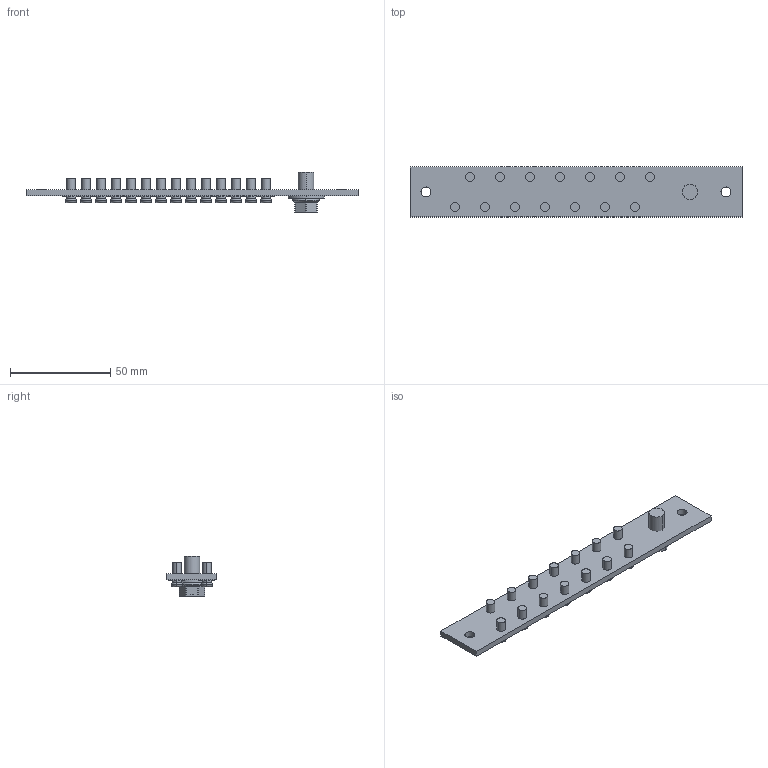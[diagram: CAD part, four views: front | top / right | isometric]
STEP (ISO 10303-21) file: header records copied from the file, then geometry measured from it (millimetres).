
FILE_DESCRIPTION(('Creo Elements/Direct Modeling STEP Export'),'2;1');
FILE_NAME('15.stp','2025-07-24T17:23:53',(''),(''),'PTC Creo Elements/Direct Modeling STEP processor for AP214 (Solid Model)','PTC Creo Elements/Direct Modeling 19.0 09-May-2014 (C) Parametric Technology GmbH','');
FILE_SCHEMA(('AUTOMOTIVE_DESIGN { 1 0 10303 214 1 1 1 1 }'));
Length unit declared in the file: millimetre
Products named in the file (17): SCREW_1_1_PRT_PRT.PRT; SCREW_1_2_PRT_PRT.PRT; SCREW_1_ASM_ASM.ASM; SCREW_0723_STP_ASM.ASM; QUILT_2-85520_PRT.PRT; QUILT_3-85900_PRT.PRT; M5_1_1_1_1_1_1_1_1_1_1_1_1_1_1_.ASM; CU_PRT.PRT; USER_LIBRARY-SAN_ZU_HE_LUO-2060.PRT; QUILT_1-14960_PRT.PRT; QUILT_2-34360_PRT.PRT; QUILT_3-34740_PRT.PRT; M5_1_1_1_1_1_1_1_1_2_ASM.ASM; A1_ASM.ASM; 17N_1_ASM.ASM; 15N_1.ASM; 15.stp
Assembly tree (30 placements, depth 6):
  15.stp
    15N_1.ASM
      17N_1_ASM.ASM
        M5_1_1_1_1_1_1_1_1_2_ASM.ASM  x7
          QUILT_3-34740_PRT.PRT
          QUILT_2-34360_PRT.PRT
          QUILT_1-14960_PRT.PRT
          USER_LIBRARY-SAN_ZU_HE_LUO-2060.PRT
        A1_ASM.ASM
          M5_1_1_1_1_1_1_1_1_2_ASM.ASM  x7
            QUILT_3-34740_PRT.PRT
            QUILT_2-34360_PRT.PRT
            QUILT_1-14960_PRT.PRT
            USER_LIBRARY-SAN_ZU_HE_LUO-2060.PRT
        CU_PRT.PRT
        M5_1_1_1_1_1_1_1_1_1_1_1_1_1_1_.ASM  x2
          QUILT_3-85900_PRT.PRT
          QUILT_2-85520_PRT.PRT
        SCREW_0723_STP_ASM.ASM
          SCREW_1_ASM_ASM.ASM
            SCREW_1_2_PRT_PRT.PRT
            SCREW_1_1_PRT_PRT.PRT
Bounding box: 166 x 25 x 20 mm (x, y, z)
Volume: 16140 mm3; surface area: 15685.2 mm2
Topology: 31 solids, 31 shells, 634 faces, 1604 edges, 1050 vertices
Faces by surface type: plane 354, cylinder 220, torus 60
Entity records: 4756 total; most frequent: CARTESIAN_POINT 727, DIRECTION 676, ORIENTED_EDGE 660, EDGE_CURVE 330, AXIS2_PLACEMENT_3D 254, VERTEX_POINT 218, EDGE_LOOP 170, VECTOR 168
